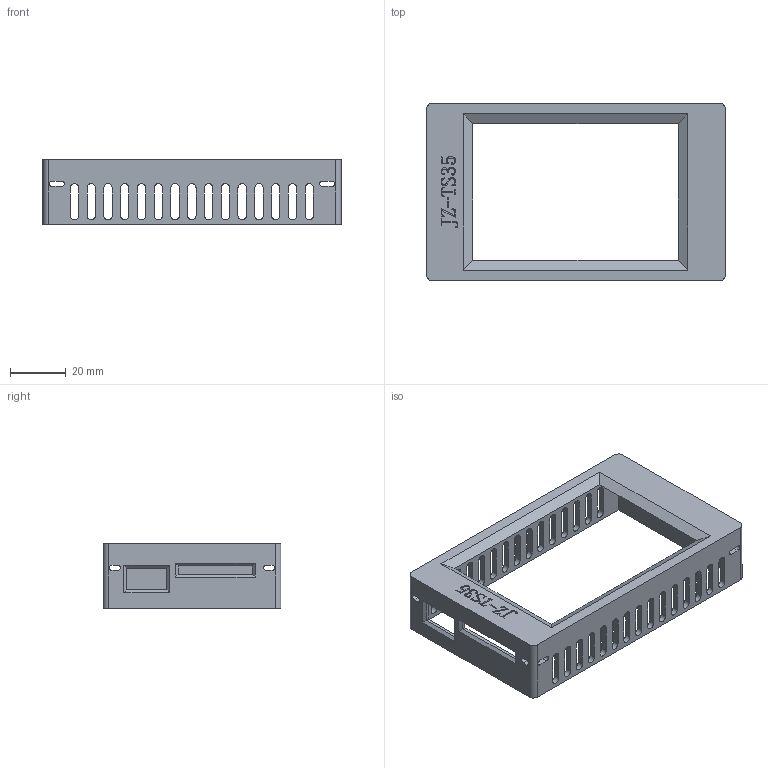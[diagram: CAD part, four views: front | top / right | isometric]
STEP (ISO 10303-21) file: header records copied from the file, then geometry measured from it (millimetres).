
FILE_DESCRIPTION (( 'STEP AP203' ), '1' );
FILE_NAME ('そ躉碟赽3.5.STEP', '2019-09-25T02:53:55', ( 'Looming' ), ( 'Microsoft' ), 'SwSTEP 2.0', 'SolidWorks 2016', '' );
FILE_SCHEMA (( 'CONFIG_CONTROL_DESIGN' ));
Length unit declared in the file: millimetre
Products named in the file (1): そ躉碟赽3.5
Bounding box: 106.7 x 63.6 x 23 mm (x, y, z)
Volume: 17922.5 mm3; surface area: 20716 mm2
Topology: 1 solids, 1 shells, 366 faces, 1048 edges, 696 vertices
Faces by surface type: plane 181, cylinder 125, bspline 60
Entity records: 15139 total; most frequent: CARTESIAN_POINT 5491, ORIENTED_EDGE 2096, DIRECTION 1792, EDGE_CURVE 1048, VERTEX_POINT 696, VECTOR 678, LINE 678, AXIS2_PLACEMENT_3D 557
